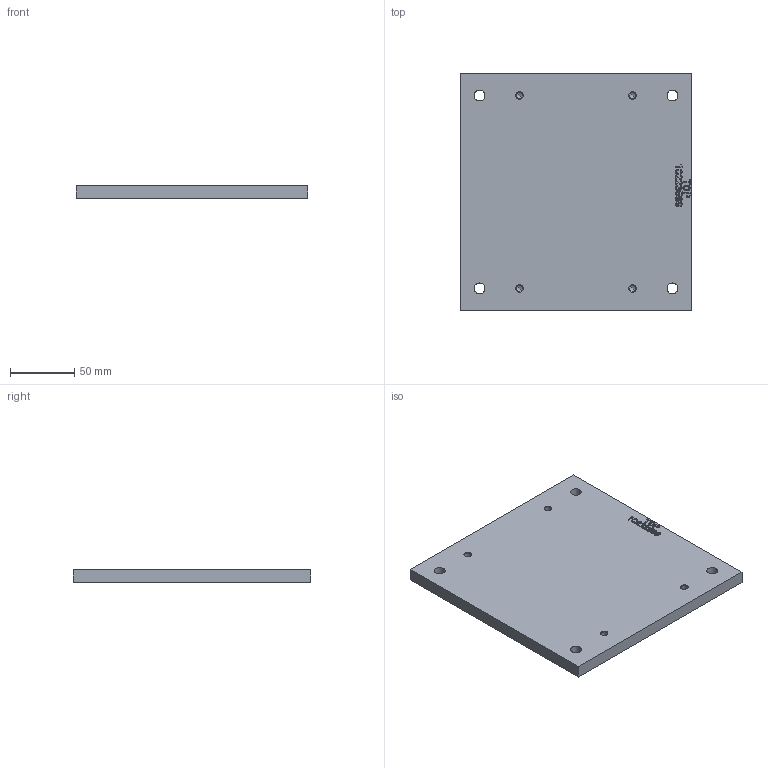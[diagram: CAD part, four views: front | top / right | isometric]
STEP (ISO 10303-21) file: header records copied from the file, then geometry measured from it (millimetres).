
FILE_DESCRIPTION(('CATIA V5 STEP 214'),'2;1');
FILE_NAME('C:\Temp\ddxv6\153270\ADAPTERPLATTE WANDMONTAGE BG D.stp','2012-02-28T09:22:54+00:00',('Leopold Kostal'),('Kostal GmbH'),'CATIA Version 5 Release 19 SP 8 (IN-10)','CATIA V5 STEP AP214','none');
FILE_SCHEMA(('AUTOMOTIVE_DESIGN { 1 0 10303 214 1 1 1 1 }'));
Length unit declared in the file: millimetre
Products named in the file (1): 10223599-1-0000A
Bounding box: 180 x 185 x 10 mm (x, y, z)
Volume: 330049.3 mm3; surface area: 75079.2 mm2
Topology: 1 solids, 1 shells, 277 faces, 761 edges, 498 vertices
Faces by surface type: extrusion 158, plane 87, cylinder 16, cone 16
Entity records: 8949 total; most frequent: CARTESIAN_POINT 3163, ORIENTED_EDGE 1506, EDGE_CURVE 753, DIRECTION 662, VERTEX_POINT 498, VECTOR 470, LINE 312, EDGE_LOOP 305
